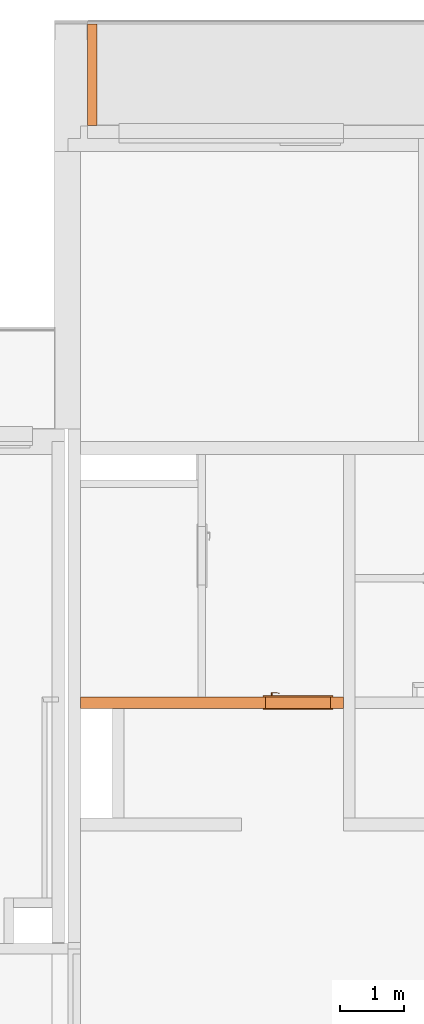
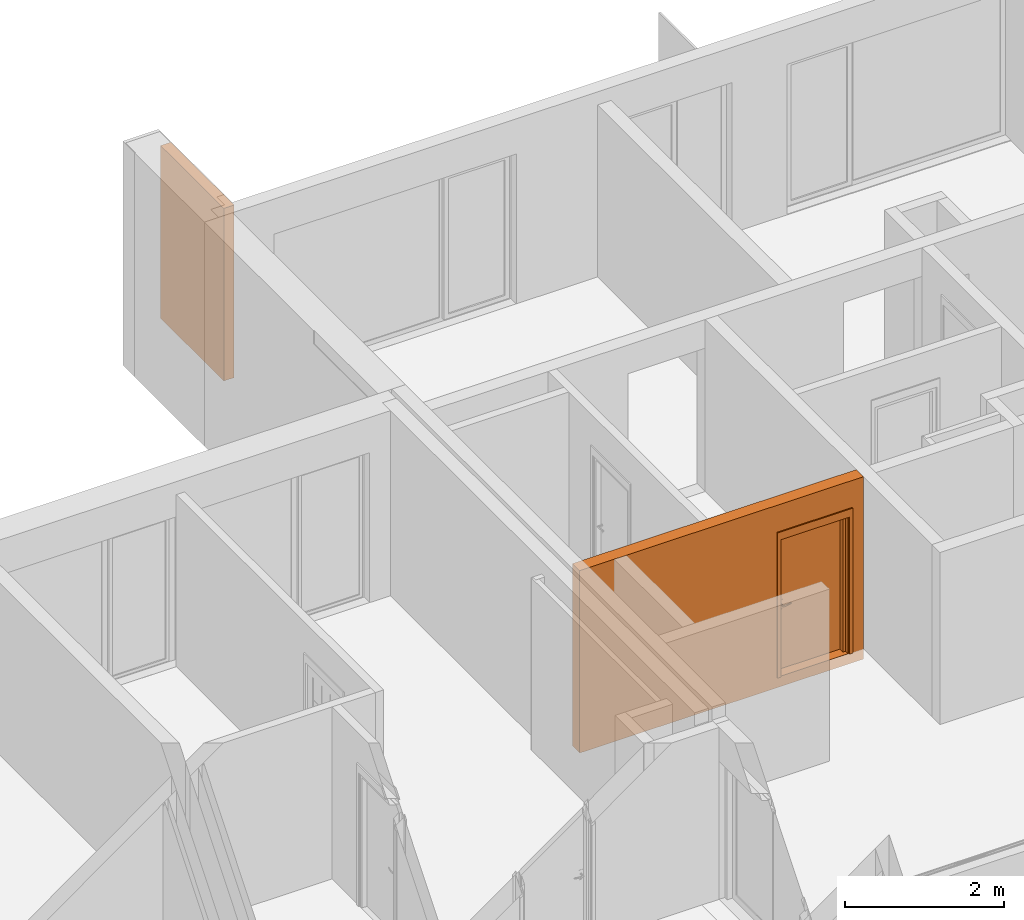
# One storey, part 34 of 67: 3 proxies, 1 opening.
"""IFC2X3 building model written with IfcOpenShell, lengths in millimetres."""

import ifcopenshell
import ifcopenshell.guid

model = None  # the IFC model being written
_history = None  # IfcOwnerHistory: only IFC2X3 demands one
_inside = {}  # id of a spatial element -> (the spatial element, [elements in it])
_under = {}  # id of a project, library or spatial element -> (it, [spatial elements below it])
_declared = {}  # id of a project -> (the project, [libraries it declares])
_typed = {}  # id of a type object -> (the type object, [elements of that type])
_made_of = {}  # id of a material, layer set ... -> (it, [elements and type objects made of it])


def new_model(schema):
    """Start an empty IFC model of exactly this schema.

    Asked for "IFC4X3", IfcOpenShell would pick the latest addendum, in which some entities
    have other attributes; the version numbers below select the first issue.
    IFC2X3 requires an IfcOwnerHistory on every rooted entity: one is made here for all.
    """
    global model, _history
    if schema == "IFC4X3":
        model = ifcopenshell.file(schema_version=(4, 3, 0, 0))
    else:
        model = ifcopenshell.file(schema=schema)
    _inside.clear()
    _under.clear()
    _declared.clear()
    _typed.clear()
    _made_of.clear()
    _history = None
    if model.schema == "IFC2X3":
        org = make("IfcOrganization", Name="unknown")
        user = make(
            "IfcPersonAndOrganization",
            ThePerson=make("IfcPerson", FamilyName="unknown"),
            TheOrganization=org,
        )
        app = make(
            "IfcApplication",
            ApplicationDeveloper=org,
            Version="unknown",
            ApplicationFullName="unknown",
            ApplicationIdentifier="unknown",
        )
        _history = make(
            "IfcOwnerHistory",
            OwningUser=user,
            OwningApplication=app,
            ChangeAction="ADDED",
            CreationDate=0,
        )
    return model


def make(cls, **values):
    """One entity of the class cls with the attributes given. An attribute that is None is left unset."""
    return model.create_entity(
        cls, **{name: value for name, value in values.items() if value is not None}
    )


def entity(cls, *values):
    """Any entity or typed value of the class cls, its attributes in the order of the schema. None: left unset."""
    e = model.create_entity(cls)
    for i, value in enumerate(values):
        if value is not None:
            e[i] = value
    return e


def rooted(cls, **values):
    """An entity with a GlobalId (a new one), such as an element, a storey or a relation."""
    return make(cls, GlobalId=ifcopenshell.guid.new(), OwnerHistory=_history, **values)


def si_unit(unit_type, name, prefix=None):
    """IfcSIUnit, for example si_unit("LENGTHUNIT", "METRE", prefix="MILLI")."""
    return make("IfcSIUnit", UnitType=unit_type, Prefix=prefix, Name=name)


def converted_unit(unit_type, name, factor, base, dimensions=None, offset=None):
    """IfcConversionBasedUnit, such as the inch: factor (a typed value) times the base unit."""
    return make(
        "IfcConversionBasedUnit"
        if offset is None
        else "IfcConversionBasedUnitWithOffset",
        ConversionOffset=offset,
        Dimensions=None
        if dimensions is None
        else entity("IfcDimensionalExponents", *dimensions),
        UnitType=unit_type,
        Name=name,
        ConversionFactor=make(
            "IfcMeasureWithUnit", ValueComponent=factor, UnitComponent=base
        ),
    )


def derived_unit(unit_type, elements):
    """IfcDerivedUnit: a product of units, each with its exponent."""
    return make(
        "IfcDerivedUnit",
        Elements=[
            make("IfcDerivedUnitElement", Unit=unit, Exponent=power)
            for unit, power in elements
        ],
        UnitType=unit_type,
    )


def money_unit(currency):
    """IfcMonetaryUnit."""
    return make("IfcMonetaryUnit", Currency=currency)


def assignment(units):
    """IfcUnitAssignment: the units of a project."""
    return None if units is None else make("IfcUnitAssignment", Units=units)


def point(xyz):
    """IfcCartesianPoint."""
    return None if xyz is None else make("IfcCartesianPoint", Coordinates=xyz)


def direction(xyz):
    """IfcDirection."""
    return None if xyz is None else make("IfcDirection", DirectionRatios=xyz)


def frame(location, z_axis=None, x_axis=None):
    """IfcAxis2Placement3D, a coordinate frame: its origin and axes. An axis left out is left unset."""
    return make(
        "IfcAxis2Placement3D",
        Location=point(location),
        Axis=direction(z_axis),
        RefDirection=direction(x_axis),
    )


def frame_2d(location, x_axis=None):
    """IfcAxis2Placement2D, a coordinate frame in the plane: its origin and x axis."""
    return make(
        "IfcAxis2Placement2D", Location=point(location), RefDirection=direction(x_axis)
    )


def origin_with_axes():
    """The frame at (0, 0, 0) with the z axis (0, 0, 1) and the x axis (1, 0, 0) written out."""
    return frame((0.0, 0.0, 0.0), z_axis=(0.0, 0.0, 1.0), x_axis=(1.0, 0.0, 0.0))


def origin_2d_with_axis():
    """The frame at (0, 0) in the plane with the x axis (1, 0) written out."""
    return frame_2d((0.0, 0.0), x_axis=(1.0, 0.0))


def place(relative_to, where):
    """IfcLocalPlacement: puts the frame where relative to a parent placement (None: the world)."""
    return make(
        "IfcLocalPlacement", PlacementRelTo=relative_to, RelativePlacement=where
    )


def context(
    kind, dimensions, precision=None, world=None, true_north=None, identifier=None
):
    """IfcGeometricRepresentationContext, for example the 3D "Model" context."""
    return make(
        "IfcGeometricRepresentationContext",
        ContextIdentifier=identifier,
        ContextType=kind,
        CoordinateSpaceDimension=dimensions,
        Precision=precision,
        WorldCoordinateSystem=world,
        TrueNorth=true_north,
    )


def subcontext(parent, identifier, kind, view, scale=None):
    """IfcGeometricRepresentationSubContext, for example "Body" below "Model"."""
    return make(
        "IfcGeometricRepresentationSubContext",
        ContextIdentifier=identifier,
        ContextType=kind,
        ParentContext=parent,
        TargetScale=scale,
        TargetView=view,
    )


def project(units=None, contexts=None):
    """IfcProject with its units and contexts."""
    return rooted(
        "IfcProject",
        Name="project",
        RepresentationContexts=contexts,
        UnitsInContext=assignment(units),
    )


def spatial(cls, under=None, at=None, **own):
    """A site, building, storey or space (cls), placed at a placement, below another one or the project."""
    s = rooted(cls, ObjectPlacement=at, **own)
    if under is not None:
        _under.setdefault(under.id(), (under, []))[1].append(s)
    return s


def polyline(points):
    """IfcPolyline through the points."""
    return make("IfcPolyline", Points=[point(p) for p in points])


def profile(cls, at=None, kind="AREA", **sizes):
    """A parametric profile (cls). Its sizes go by their IFC names, for example OverallWidth=200.0."""
    return make(cls, ProfileType=kind, Position=at, **sizes)


def rectangle(**sizes):
    """IfcRectangleProfileDef."""
    return profile("IfcRectangleProfileDef", **sizes)


def outline(outer, holes=None, kind="AREA"):
    """IfcArbitraryClosedProfileDef: a profile drawn as a closed curve; with holes, ...WithVoids."""
    if holes is None:
        return make("IfcArbitraryClosedProfileDef", ProfileType=kind, OuterCurve=outer)
    return make(
        "IfcArbitraryProfileDefWithVoids",
        ProfileType=kind,
        OuterCurve=outer,
        InnerCurves=holes,
    )


def extrude(swept, where, along, depth):
    """IfcExtrudedAreaSolid: the profile swept, set in the frame where, extruded along a direction by depth."""
    return make(
        "IfcExtrudedAreaSolid",
        SweptArea=swept,
        Position=where,
        ExtrudedDirection=direction(along),
        Depth=depth,
    )


def faces_of(points, faces, orient=None, outer=None):
    """IfcFace entities. A face is a list of loops; a loop is a list of indices into points, from 0.

    orient and outer hold one flag for each loop. By default every Orientation is true, the
    first loop of a face is its IfcFaceOuterBound and the others are IfcFaceBound.
    """
    made = []
    for i, loops in enumerate(faces):
        bounds = []
        for j, loop in enumerate(loops):
            is_outer = j == 0 if outer is None else outer[i][j]
            bounds.append(
                make(
                    "IfcFaceOuterBound" if is_outer else "IfcFaceBound",
                    Bound=make("IfcPolyLoop", Polygon=[points[k] for k in loop]),
                    Orientation=True if orient is None else orient[i][j],
                )
            )
        made.append(make("IfcFace", Bounds=bounds))
    return made


def open_shell(faces, orient=None, outer=None):
    """The faces of one IfcOpenShell. surface_model builds it on its shared points."""
    return ("IfcOpenShell", faces, orient, outer)


def faceted_brep(points, faces, orient=None, outer=None, voids=None):
    """IfcFacetedBrep: a solid bounded by flat faces; with voids (closed shells), ...WithVoids."""
    shared = [point(p) for p in points]
    hull = make("IfcClosedShell", CfsFaces=faces_of(shared, faces, orient, outer))
    if voids is None:
        return make("IfcFacetedBrep", Outer=hull)
    return make(
        "IfcFacetedBrepWithVoids",
        Outer=hull,
        Voids=[
            make(cls, CfsFaces=faces_of(shared, fs, o, b)) for cls, fs, o, b in voids
        ],
    )


def surface_model(cls, points, shells):
    """IfcFaceBasedSurfaceModel or IfcShellBasedSurfaceModel (cls): surfaces that need not close."""
    shared = [point(p) for p in points]
    made = [make(c, CfsFaces=faces_of(shared, fs, o, b)) for c, fs, o, b in shells]
    if cls == "IfcFaceBasedSurfaceModel":
        return make(cls, FbsmFaces=made)
    return make(cls, SbsmBoundary=made)


def shape(context_of_items, identifier, shape_type, items):
    """IfcShapeRepresentation: the items that make up one representation, for example the "Body"."""
    return make(
        "IfcShapeRepresentation",
        ContextOfItems=context_of_items,
        RepresentationIdentifier=identifier,
        RepresentationType=shape_type,
        Items=items,
    )


def source(mapping_origin, context_of_items, identifier, shape_type, items):
    """IfcRepresentationMap: a shape defined once, which mapped items show again and again."""
    return make(
        "IfcRepresentationMap",
        MappingOrigin=mapping_origin,
        MappedRepresentation=shape(context_of_items, identifier, shape_type, items),
    )


def transform(
    local_origin,
    x_axis=None,
    y_axis=None,
    z_axis=None,
    scale=None,
    scale2=None,
    scale3=None,
    uniform=True,
):
    """IfcCartesianTransformationOperator3D, or its non-uniform kind. x_axis, y_axis, z_axis: its Axis1, 2, 3."""
    if uniform:
        return make(
            "IfcCartesianTransformationOperator3D",
            Axis1=direction(x_axis),
            Axis2=direction(y_axis),
            LocalOrigin=point(local_origin),
            Scale=scale,
            Axis3=direction(z_axis),
        )
    return make(
        "IfcCartesianTransformationOperator3DnonUniform",
        Axis1=direction(x_axis),
        Axis2=direction(y_axis),
        LocalOrigin=point(local_origin),
        Scale=scale,
        Axis3=direction(z_axis),
        Scale2=scale2,
        Scale3=scale3,
    )


def mapped(mapping_source, mapping_target):
    """IfcMappedItem: shows the shape of a source again, moved by a transform."""
    return make(
        "IfcMappedItem", MappingSource=mapping_source, MappingTarget=mapping_target
    )


def material(Name=None, Category=None):
    """IfcMaterial."""
    return make("IfcMaterial", Name=Name, Category=Category)


def made_of(thing, what):
    """Note that an element or type object is made of a material, layer set ...; save() writes the relation."""
    if what is not None:
        _made_of.setdefault(what.id(), (what, []))[1].append(thing)
    return thing


def type_object(cls, material=None, **own):
    """A type object (cls), such as IfcWallType, which elements share."""
    return made_of(rooted(cls, **own), material)


def element(
    cls,
    number,
    at=None,
    inside=None,
    cuts=None,
    type_object=None,
    material=None,
    context=None,
    identifier="Body",
    shape_type=None,
    held_by="IfcProductDefinitionShape",
    body=None,
    shapes=None,
    **own,
):
    """One element of the class cls, such as IfcWall. Its Tag is "e" and its number.

    at: its placement. inside: the storey or other place that contains it. cuts: it is an
    opening in that element (IfcRelVoidsElement). A single representation is given by context,
    identifier, shape_type and body (its items); several are given by shapes. held_by: the class
    of the entity that holds the representations. save() writes the other relations.
    """
    e = rooted(cls, Tag="e%d" % number, ObjectPlacement=at, **own)
    if body is not None:
        shapes = [shape(context, identifier, shape_type, body)]
    if shapes is not None:
        e.Representation = make(held_by, Representations=shapes)
    if inside is not None:
        _inside.setdefault(inside.id(), (inside, []))[1].append(e)
    if cuts is not None:
        rooted(
            "IfcRelVoidsElement", RelatingBuildingElement=cuts, RelatedOpeningElement=e
        )
    if type_object is not None:
        _typed.setdefault(type_object.id(), (type_object, []))[1].append(e)
    return made_of(e, material)


def fill(opening, filler):
    """IfcRelFillsElement: the door or window that sits in an opening."""
    return rooted(
        "IfcRelFillsElement",
        RelatingOpeningElement=opening,
        RelatedBuildingElement=filler,
    )


def aggregate(whole, parts):
    """IfcRelAggregates: a whole, such as a stair, and the parts it consists of."""
    return rooted("IfcRelAggregates", RelatingObject=whole, RelatedObjects=parts)


def save(model, path):
    """Write the relations noted so far, then the file.

    IfcRelAggregates (storeys below a building ...), IfcRelContainedInSpatialStructure (elements
    in a storey), IfcRelDefinesByType, IfcRelAssociatesMaterial and IfcRelDeclares: one each for
    every whole, place, type object, material and project.
    """
    for whole, parts in _under.values():
        aggregate(whole, parts)
    for where, things in _inside.values():
        rooted(
            "IfcRelContainedInSpatialStructure",
            RelatedElements=things,
            RelatingStructure=where,
        )
    for kind, things in _typed.values():
        rooted("IfcRelDefinesByType", RelatedObjects=things, RelatingType=kind)
    for what, things in _made_of.values():
        rooted("IfcRelAssociatesMaterial", RelatedObjects=things, RelatingMaterial=what)
    for by, libraries in _declared.values():
        rooted("IfcRelDeclares", RelatingContext=by, RelatedDefinitions=libraries)
    model.write(path)


model = new_model("IFC2X3")

# Units and contexts
model_context = context("Model", 3, precision=0.01, world=origin_with_axes(), true_north=direction((0.34421633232, 0.938890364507)))
body_context = subcontext(model_context, "Body", "Model", "MODEL_VIEW")
ifc_project = project(units=[si_unit("LENGTHUNIT", "METRE", prefix="MILLI"), si_unit("AREAUNIT", "SQUARE_METRE"), si_unit("VOLUMEUNIT", "CUBIC_METRE"), converted_unit("PLANEANGLEUNIT", "DEGREE", entity("IfcPlaneAngleMeasure", 0.0174532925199), si_unit("PLANEANGLEUNIT", "RADIAN"), dimensions=[0, 0, 0, 0, 0, 0, 0]), si_unit("SOLIDANGLEUNIT", "STERADIAN"), money_unit("USD"), converted_unit("TIMEUNIT", "Year", entity("IfcTimeMeasure", 31556926.0), si_unit("TIMEUNIT", "SECOND"), dimensions=[0, 0, 1, 0, 0, 0, 0]), si_unit("MASSUNIT", "GRAM", prefix="KILO"), si_unit("THERMODYNAMICTEMPERATUREUNIT", "DEGREE_CELSIUS"), si_unit("LUMINOUSINTENSITYUNIT", "LUMEN"), si_unit("ENERGYUNIT", "JOULE", prefix="MEGA"), derived_unit("THERMALCONDUCTANCEUNIT", [(si_unit("POWERUNIT", "WATT"), 1), (si_unit("LENGTHUNIT", "METRE"), -1), (si_unit("THERMODYNAMICTEMPERATUREUNIT", "KELVIN"), -1)]), derived_unit("SPECIFICHEATCAPACITYUNIT", [(si_unit("ENERGYUNIT", "JOULE"), 1), (si_unit("MASSUNIT", "GRAM", prefix="KILO"), -1), (si_unit("THERMODYNAMICTEMPERATUREUNIT", "KELVIN"), -1)]), derived_unit("MASSDENSITYUNIT", [(si_unit("MASSUNIT", "GRAM", prefix="KILO"), 1), (si_unit("VOLUMEUNIT", "CUBIC_METRE"), -1)])], contexts=[model_context])

# Site, building, storey
site_placement = place(None, origin_with_axes())
site = spatial("IfcSite", under=ifc_project, at=site_placement, Name="USTRONIE MORSKIE", CompositionType="ELEMENT")
building_placement = place(site_placement, origin_with_axes())
building = spatial("IfcBuilding", under=site, at=building_placement, Name="Budynek", CompositionType="ELEMENT")
storey_placement = place(building_placement, frame((0.0, 0.0, 4000.0), z_axis=(0.0, 0.0, 1.0), x_axis=(1.0, 0.0, 0.0)))
storey = spatial("IfcBuildingStorey", under=building, at=storey_placement, Name="PIĘTRO 1", CompositionType="ELEMENT", Elevation=4000.0)

# Proxies, opening
ifc_material_1 = material(Name="Bloczki silikatowe")
building_element_proxy_type_1 = type_object("IfcBuildingElementProxyType", Name="Bloczki silikatowe 180", PredefinedType="NOTDEFINED")
proxy_1_placement = place(storey_placement, frame((412877.920963, 740711.179476, -160.0), z_axis=(0.0, 0.0, 1.0), x_axis=(-1.0, 0.0, 0.0)))
proxy_1 = element("IfcBuildingElementProxy", 1, at=proxy_1_placement, inside=storey, type_object=building_element_proxy_type_1, material=ifc_material_1, Name="SW-02", context=body_context, shape_type="Brep", body=[
    faceted_brep([(4210.04738096, 90.0, 2800.0), (90.0, 90.0, 2800.0), (90.0, -90.0, 2800.0), (4210.04543563, -90.0, 2800.0), (4210.04738096, 90.0, 0.0), (90.0, 90.0, 0.0), (90.0, -90.0, 0.0), (4210.04543563, -90.0, 0.0)], [[[0, 1, 2, 3]], [[4, 5, 1, 0]], [[5, 6, 2, 1]], [[3, 2, 6, 7]], [[0, 3, 7, 4]], [[7, 6, 5, 4]]]),
])
opening_placement = place(proxy_1_placement, frame((800.0, 0.0, 160.0), z_axis=(0.0, 0.0, 1.0), x_axis=(1.0, 0.0, 0.0)))
opening = element("IfcOpeningElement", 2, at=opening_placement, cuts=proxy_1, Name="Dw.1", context=body_context, shape_type="SweptSolid", body=[
    extrude(rectangle(XDim=1020.0, YDim=2120.0, at=origin_2d_with_axis()), frame((0.0, 180.0, 1060.0), z_axis=(0.0, -1.0, 0.0), x_axis=(-1.0, 0.0, 0.0)), (0.0, 0.0, 1.0), 540.0),
    extrude(rectangle(XDim=1094.0, YDim=2227.0, at=origin_2d_with_axis()), frame((0.0, 89.9999999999, 1113.5), z_axis=(0.0, -1.0, 0.0), x_axis=(-1.0, 0.0, 0.0)), (0.0, 0.0, -1.0), 180.0),
    extrude(rectangle(XDim=1094.0, YDim=2227.0, at=origin_2d_with_axis()), frame((0.0, -90.0, 1113.5), z_axis=(0.0, 1.0, 0.0), x_axis=(-1.0, 0.0, 0.0)), (0.0, 0.0, -1.0), 180.0),
])
building_element_proxy_type_2 = type_object("IfcBuildingElementProxyType", Name="Drzwi 23", PredefinedType="NOTDEFINED")
shared_shape = source(origin_with_axes(), body_context, "Body", "SurfaceModel", [
    faceted_brep([(-510.0, -115.0, 0.0), (-485.0, -115.0, 0.0), (-485.0, -180.0, 0.0), (-510.0, -180.0, 0.0), (-510.0, -115.0, 2120.0), (-485.0, -115.0, 2095.0), (-485.0, -180.0, 2095.0), (-510.0, -180.0, 2120.0)], [[[0, 1, 2, 3]], [[0, 4, 5, 1]], [[1, 5, 6, 2]], [[3, 2, 6, 7]], [[4, 0, 3, 7]], [[5, 4, 7, 6]]]),
    faceted_brep([(510.0, -115.0, 2120.0), (485.0, -115.0, 2095.0), (485.0, -180.0, 2095.0), (510.0, -180.0, 2120.0), (510.0, -115.0, 0.0), (485.0, -115.0, 0.0), (485.0, -180.0, 0.0), (510.0, -180.0, 0.0)], [[[0, 1, 2, 3]], [[0, 4, 5, 1]], [[1, 5, 6, 2]], [[3, 2, 6, 7]], [[4, 0, 3, 7]], [[5, 4, 7, 6]]]),
    faceted_brep([(-485.0, -115.0, 2095.0), (485.0, -115.0, 2095.0), (485.0, -180.0, 2095.0), (-485.0, -180.0, 2095.0), (-510.0, -115.0, 2120.0), (510.0, -115.0, 2120.0), (510.0, -180.0, 2120.0), (-510.0, -180.0, 2120.0)], [[[0, 1, 2, 3]], [[0, 4, 5, 1]], [[1, 5, 6, 2]], [[3, 2, 6, 7]], [[4, 0, 3, 7]], [[5, 4, 7, 6]]]),
    faceted_brep([(-547.0, -199.0, 0.0), (-547.0, -180.0, 0.0), (-497.0, -180.0, 0.0), (-497.0, -199.0, 0.0), (-547.0, -199.0, 2227.0), (-547.0, -180.0, 2227.0), (-497.0, -180.0, 2107.0), (-497.0, -199.0, 2107.0)], [[[0, 1, 2, 3]], [[4, 5, 1, 0]], [[1, 5, 6, 2]], [[3, 2, 6, 7]], [[0, 3, 7, 4]], [[7, 6, 5, 4]]]),
    faceted_brep([(547.0, -199.0, 2227.0), (547.0, -180.0, 2227.0), (497.0, -180.0, 2107.0), (497.0, -199.0, 2107.0), (547.0, -199.0, 0.0), (547.0, -180.0, 0.0), (497.0, -180.0, 0.0), (497.0, -199.0, 0.0)], [[[0, 1, 2, 3]], [[4, 5, 1, 0]], [[1, 5, 6, 2]], [[3, 2, 6, 7]], [[0, 3, 7, 4]], [[7, 6, 5, 4]]]),
    faceted_brep([(-547.0, -199.0, 2227.0), (-547.0, -180.0, 2227.0), (-497.0, -180.0, 2107.0), (-497.0, -199.0, 2107.0), (547.0, -199.0, 2227.0), (547.0, -180.0, 2227.0), (497.0, -180.0, 2107.0), (497.0, -199.0, 2107.0)], [[[0, 1, 2, 3]], [[4, 5, 1, 0]], [[1, 5, 6, 2]], [[3, 2, 6, 7]], [[0, 3, 7, 4]], [[7, 6, 5, 4]]]),
    faceted_brep([(-547.0, 19.0, 0.0), (-497.0, 19.0, 0.0), (-497.0, 0.0, 0.0), (-547.0, 0.0, 0.0), (-547.0, 19.0, 2227.0), (-497.0, 19.0, 2107.0), (-497.0, 0.0, 2107.0), (-547.0, 0.0, 2227.0)], [[[0, 1, 2, 3]], [[0, 4, 5, 1]], [[1, 5, 6, 2]], [[3, 2, 6, 7]], [[4, 0, 3, 7]], [[5, 4, 7, 6]]]),
    faceted_brep([(547.0, 19.0, 2227.0), (497.0, 19.0, 2107.0), (497.0, 0.0, 2107.0), (547.0, 0.0, 2227.0), (547.0, 19.0, 0.0), (497.0, 19.0, 0.0), (497.0, 0.0, 0.0), (547.0, 0.0, 0.0)], [[[0, 1, 2, 3]], [[0, 4, 5, 1]], [[1, 5, 6, 2]], [[3, 2, 6, 7]], [[4, 0, 3, 7]], [[5, 4, 7, 6]]]),
    faceted_brep([(-547.0, 19.0, 2227.0), (-497.0, 19.0, 2107.0), (-497.0, 0.0, 2107.0), (-547.0, 0.0, 2227.0), (547.0, 19.0, 2227.0), (497.0, 19.0, 2107.0), (497.0, 0.0, 2107.0), (547.0, 0.0, 2227.0)], [[[0, 1, 2, 3]], [[0, 4, 5, 1]], [[1, 5, 6, 2]], [[3, 2, 6, 7]], [[4, 0, 3, 7]], [[5, 4, 7, 6]]]),
    faceted_brep([(-450.0, -40.0, 0.0), (-450.0, -40.0, 2050.0), (-450.0, -115.0, 2050.0), (-450.0, -115.0, 0.0), (-462.0, -40.0, 2050.0), (-462.0, -40.0, 0.0), (-462.0, 0.0, 2050.0), (-510.0, 0.0, 2050.0), (-510.0, -115.0, 2050.0), (-510.0, -115.0, 0.0), (-510.0, 0.0, 0.0), (-462.0, 0.0, 0.0)], [[[0, 1, 2, 3]], [[4, 1, 0, 5]], [[4, 6, 7, 8, 2, 1]], [[3, 2, 8, 9]], [[5, 0, 3, 9, 10, 11]], [[6, 4, 5, 11]], [[6, 11, 10, 7]], [[10, 9, 8, 7]]]),
    faceted_brep([(462.0, -40.0, 2050.0), (450.0, -40.0, 2050.0), (450.0, -115.0, 2050.0), (510.0, -115.0, 2050.0), (510.0, 0.0, 2050.0), (462.0, 0.0, 2050.0), (462.0, -40.0, 0.0), (450.0, -40.0, 0.0), (450.0, -115.0, 0.0), (510.0, -115.0, 0.0), (510.0, 0.0, 0.0), (462.0, 0.0, 0.0)], [[[0, 1, 2, 3, 4, 5]], [[1, 0, 6, 7]], [[1, 7, 8, 2]], [[3, 2, 8, 9]], [[4, 3, 9, 10]], [[11, 5, 4, 10]], [[0, 5, 11, 6]], [[6, 11, 10, 9, 8, 7]]]),
    faceted_brep([(-462.0, 0.0, 2062.0), (-462.0, 0.0, 2050.0), (-510.0, 0.0, 2050.0), (-510.0, 0.0, 2120.0), (510.0, 0.0, 2120.0), (510.0, 0.0, 2050.0), (462.0, 0.0, 2050.0), (462.0, 0.0, 2062.0), (-462.0, -40.0, 2062.0), (-462.0, -40.0, 2050.0), (-450.0, -40.0, 2050.0), (-450.0, -115.0, 2050.0), (-510.0, -115.0, 2050.0), (-510.0, -115.0, 2120.0), (510.0, -115.0, 2120.0), (510.0, -115.0, 2050.0), (462.0, -40.0, 2050.0), (450.0, -115.0, 2050.0), (450.0, -40.0, 2050.0), (462.0, -40.0, 2062.0)], [[[0, 1, 2, 3, 4, 5, 6, 7]], [[1, 0, 8, 9]], [[9, 10, 11, 12, 2, 1]], [[2, 12, 13, 3]], [[3, 13, 14, 4]], [[4, 14, 15, 5]], [[16, 6, 5, 15, 17, 18]], [[7, 6, 16, 19]], [[0, 7, 19, 8]], [[16, 18, 10, 9, 8, 19]], [[10, 18, 17, 11]], [[17, 15, 14, 13, 12, 11]]]),
    faceted_brep([(-440.5, -40.0, 1060.0), (-440.5, -43.0, 1060.0), (-383.5, -43.0, 1060.0), (-383.5, -40.0, 1060.0), (-440.5, -40.0, 870.0), (-440.5, -43.0, 870.0), (-383.5, -43.0, 870.0), (-383.5, -40.0, 870.0)], [[[0, 1, 2, 3]], [[4, 5, 1, 0]], [[1, 5, 6, 2]], [[3, 2, 6, 7]], [[0, 3, 7, 4]], [[7, 6, 5, 4]]]),
    faceted_brep([(-412.0, -104.0, 990.0), (-412.0, -111.0, 990.0), (-417.0, -111.0, 991.339745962), (-417.0, -104.0, 991.339745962), (-387.0, -104.0, 990.0), (-387.0, -111.0, 990.0), (-387.0, -111.0, 1010.0), (-412.0, -111.0, 1010.0), (-417.0, -111.0, 1008.66025404), (-420.660254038, -111.0, 1005.0), (-422.0, -111.0, 1000.0), (-420.660254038, -111.0, 995.0), (-420.660254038, -104.0, 995.0), (-422.0, -104.0, 1000.0), (-420.660254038, -104.0, 1005.0), (-417.0, -104.0, 1008.66025404), (-412.0, -104.0, 1010.0), (-387.0, -104.0, 1010.0)], [[[0, 1, 2, 3]], [[4, 5, 1, 0]], [[1, 5, 6, 7, 8, 9, 10, 11, 2]], [[3, 2, 11, 12]], [[0, 3, 12, 13, 14, 15, 16, 17, 4]], [[17, 6, 5, 4]], [[16, 7, 6, 17]], [[15, 8, 7, 16]], [[14, 9, 8, 15]], [[13, 10, 9, 14]], [[12, 11, 10, 13]]]),
    surface_model("IfcShellBasedSurfaceModel", [(-387.0, -104.0, 1010.0), (-373.596090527, -111.0, 1009.60730092), (-373.901717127, -104.0, 1009.60730092), (-387.0, -111.0, 1010.0), (-346.890283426, -108.663544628, 1008.82190275), (-373.901717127, -104.0, 990.392699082), (-387.0, -104.0, 990.0), (-387.0, -111.0, 990.0), (-373.596090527, -111.0, 990.392699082), (-346.890283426, -108.663544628, 991.178097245), (-347.804837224, -101.716818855, 1008.82190275), (-347.804837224, -101.716818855, 991.178097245), (-320.489735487, -104.008415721, 991.963495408), (-320.489735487, -104.008415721, 1008.03650459), (-322.006256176, -97.1678329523, 1008.03650459), (-322.006256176, -97.1678329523, 991.963495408), (-294.59537082, -97.0700416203, 992.748893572), (-294.59537082, -97.0700416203, 1007.25110643), (-296.702316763, -90.3876628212, 1007.25110643), (-296.702316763, -90.3876628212, 992.748893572), (-286.538795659, -94.1376880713, 993.0), (-286.538795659, -94.1376880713, 1007.0), (-288.829442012, -87.5221707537, 1007.0), (-288.829442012, -87.5221707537, 993.0)], [open_shell([[[0, 1, 2]], [[0, 3, 1]], [[2, 1, 4]], [[0, 2, 5, 6]], [[3, 7, 8, 1]], [[1, 8, 9, 4]], [[2, 4, 10]], [[2, 10, 11, 5]], [[5, 7, 6]], [[5, 8, 7]], [[11, 9, 8]], [[4, 9, 12, 13]], [[10, 4, 13]], [[10, 14, 15, 11]], [[11, 8, 5]], [[15, 9, 11]], [[15, 12, 9]], [[13, 12, 16, 17]], [[10, 13, 14]], [[14, 18, 19, 15]], [[19, 12, 15]], [[19, 16, 12]], [[17, 16, 20, 21]], [[14, 13, 17]], [[14, 17, 18]], [[18, 22, 23, 19]], [[23, 16, 19]], [[23, 20, 16]], [[22, 21, 20, 23]], [[18, 17, 21]], [[18, 21, 22]]])]),
    faceted_brep([(-401.607695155, -53.0, 994.0), (-400.741669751, -43.0, 993.5), (-399.0, -43.0, 1000.0), (-400.0, -53.0, 1000.0), (-406.0, -53.0, 989.607695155), (-405.5, -43.0, 988.741669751), (-412.0, -43.0, 987.0), (-418.5, -43.0, 988.741669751), (-423.258330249, -43.0, 993.5), (-425.0, -43.0, 1000.0), (-423.258330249, -43.0, 1006.5), (-418.5, -43.0, 1011.25833025), (-412.0, -43.0, 1013.0), (-405.5, -43.0, 1011.25833025), (-400.741669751, -43.0, 1006.5), (-401.607695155, -53.0, 1006.0), (-406.0, -53.0, 1010.39230485), (-412.0, -53.0, 1012.0), (-418.0, -53.0, 1010.39230485), (-422.392304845, -53.0, 1006.0), (-424.0, -53.0, 1000.0), (-422.392304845, -53.0, 994.0), (-418.0, -53.0, 989.607695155), (-412.0, -53.0, 988.0)], [[[0, 1, 2, 3]], [[4, 5, 1, 0]], [[2, 1, 5, 6, 7, 8, 9, 10, 11, 12, 13, 14]], [[3, 2, 14, 15]], [[3, 15, 16, 17, 18, 19, 20, 21, 22, 23, 4, 0]], [[23, 6, 5, 4]], [[22, 7, 6, 23]], [[21, 8, 7, 22]], [[20, 9, 8, 21]], [[19, 10, 9, 20]], [[18, 11, 10, 19]], [[17, 12, 11, 18]], [[16, 13, 12, 17]], [[15, 14, 13, 16]]]),
    faceted_brep([(-394.679491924, -47.0, 895.0), (-392.947441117, -43.0, 894.0), (-390.0, -43.0, 905.0), (-392.0, -47.0, 905.0), (-402.0, -47.0, 887.679491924), (-401.0, -43.0, 885.947441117), (-412.0, -43.0, 883.0), (-423.0, -43.0, 885.947441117), (-431.052558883, -43.0, 894.0), (-434.0, -43.0, 905.0), (-431.052558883, -43.0, 916.0), (-423.0, -43.0, 924.052558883), (-412.0, -43.0, 927.0), (-401.0, -43.0, 924.052558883), (-392.947441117, -43.0, 916.0), (-394.679491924, -47.0, 915.0), (-402.0, -47.0, 922.320508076), (-412.0, -47.0, 925.0), (-422.0, -47.0, 922.320508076), (-429.320508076, -47.0, 915.0), (-432.0, -47.0, 905.0), (-429.320508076, -47.0, 895.0), (-422.0, -47.0, 887.679491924), (-412.0, -47.0, 885.0)], [[[0, 1, 2, 3]], [[4, 5, 1, 0]], [[2, 1, 5, 6, 7, 8, 9, 10, 11, 12, 13, 14]], [[3, 2, 14, 15]], [[3, 15, 16, 17, 18, 19, 20, 21, 22, 23, 4, 0]], [[23, 6, 5, 4]], [[22, 7, 6, 23]], [[21, 8, 7, 22]], [[20, 9, 8, 21]], [[19, 10, 9, 20]], [[18, 11, 10, 19]], [[17, 12, 11, 18]], [[16, 13, 12, 17]], [[15, 14, 13, 16]]]),
    faceted_brep([(-407.050252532, -49.0, 909.050252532), (-406.343145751, -47.0, 908.343145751), (-404.0, -47.0, 914.0), (-405.0, -49.0, 914.0), (-412.0, -49.0, 907.0), (-412.0, -47.0, 906.0), (-417.656854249, -47.0, 908.343145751), (-420.0, -47.0, 914.0), (-417.656854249, -47.0, 919.656854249), (-412.0, -47.0, 922.0), (-406.343145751, -47.0, 919.656854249), (-407.050252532, -49.0, 918.949747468), (-412.0, -49.0, 921.0), (-416.949747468, -49.0, 918.949747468), (-419.0, -49.0, 914.0), (-416.949747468, -49.0, 909.050252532)], [[[0, 1, 2, 3]], [[4, 5, 1, 0]], [[2, 1, 5, 6, 7, 8, 9, 10]], [[3, 2, 10, 11]], [[3, 11, 12, 13, 14, 15, 4, 0]], [[15, 6, 5, 4]], [[14, 7, 6, 15]], [[13, 8, 7, 14]], [[12, 9, 8, 13]], [[11, 10, 9, 12]]]),
    faceted_brep([(-412.0, -53.0, 1010.0), (-412.0, -104.0, 1010.0), (-407.0, -104.0, 1008.66025404), (-407.0, -53.0, 1008.66025404), (-417.0, -53.0, 1008.66025404), (-417.0, -104.0, 1008.66025404), (-420.660254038, -104.0, 1005.0), (-422.0, -104.0, 1000.0), (-420.660254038, -104.0, 995.0), (-417.0, -104.0, 991.339745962), (-412.0, -104.0, 990.0), (-407.0, -104.0, 991.339745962), (-403.339745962, -104.0, 995.0), (-402.0, -104.0, 1000.0), (-403.339745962, -104.0, 1005.0), (-403.339745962, -53.0, 1005.0), (-402.0, -53.0, 1000.0), (-403.339745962, -53.0, 995.0), (-407.0, -53.0, 991.339745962), (-412.0, -53.0, 990.0), (-417.0, -53.0, 991.339745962), (-420.660254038, -53.0, 995.0), (-422.0, -53.0, 1000.0), (-420.660254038, -53.0, 1005.0)], [[[0, 1, 2, 3]], [[4, 5, 1, 0]], [[1, 5, 6, 7, 8, 9, 10, 11, 12, 13, 14, 2]], [[3, 2, 14, 15]], [[0, 3, 15, 16, 17, 18, 19, 20, 21, 22, 23, 4]], [[23, 6, 5, 4]], [[22, 7, 6, 23]], [[21, 8, 7, 22]], [[20, 9, 8, 21]], [[19, 10, 9, 20]], [[18, 11, 10, 19]], [[17, 12, 11, 18]], [[16, 13, 12, 17]], [[15, 14, 13, 16]]]),
    faceted_brep([(-440.5, 0.0, 1060.0), (-383.5, 0.0, 1060.0), (-383.5, 3.0, 1060.0), (-440.5, 3.0, 1060.0), (-440.5, 0.0, 870.0), (-383.5, 0.0, 870.0), (-383.5, 3.0, 870.0), (-440.5, 3.0, 870.0)], [[[0, 1, 2, 3]], [[0, 4, 5, 1]], [[1, 5, 6, 2]], [[3, 2, 6, 7]], [[4, 0, 3, 7]], [[5, 4, 7, 6]]]),
    faceted_brep([(-412.0, 64.0, 990.0), (-417.0, 64.0, 991.339745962), (-417.0, 71.0, 991.339745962), (-412.0, 71.0, 990.0), (-387.0, 64.0, 990.0), (-387.0, 64.0, 1010.0), (-412.0, 64.0, 1010.0), (-417.0, 64.0, 1008.66025404), (-420.660254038, 64.0, 1005.0), (-422.0, 64.0, 1000.0), (-420.660254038, 64.0, 995.0), (-420.660254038, 71.0, 995.0), (-422.0, 71.0, 1000.0), (-420.660254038, 71.0, 1005.0), (-417.0, 71.0, 1008.66025404), (-412.0, 71.0, 1010.0), (-387.0, 71.0, 1010.0), (-387.0, 71.0, 990.0)], [[[0, 1, 2, 3]], [[0, 4, 5, 6, 7, 8, 9, 10, 1]], [[1, 10, 11, 2]], [[3, 2, 11, 12, 13, 14, 15, 16, 17]], [[4, 0, 3, 17]], [[5, 4, 17, 16]], [[6, 5, 16, 15]], [[7, 6, 15, 14]], [[8, 7, 14, 13]], [[9, 8, 13, 12]], [[10, 9, 12, 11]]]),
    surface_model("IfcShellBasedSurfaceModel", [(-387.0, 64.0, 1010.0), (-373.901717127, 64.0, 1009.60730092), (-373.596090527, 71.0, 1009.60730092), (-387.0, 64.0, 990.0), (-373.901717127, 64.0, 990.392699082), (-346.890283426, 68.6635446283, 1008.82190275), (-387.0, 71.0, 1010.0), (-387.0, 71.0, 990.0), (-347.804837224, 61.716818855, 991.178097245), (-347.804837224, 61.716818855, 1008.82190275), (-346.890283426, 68.6635446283, 991.178097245), (-373.596090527, 71.0, 990.392699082), (-322.006256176, 57.1678329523, 991.963495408), (-322.006256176, 57.1678329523, 1008.03650459), (-320.489735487, 64.0084157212, 1008.03650459), (-320.489735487, 64.0084157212, 991.963495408), (-296.702316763, 50.3876628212, 992.748893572), (-296.702316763, 50.3876628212, 1007.25110643), (-294.59537082, 57.0700416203, 1007.25110643), (-294.59537082, 57.0700416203, 992.748893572), (-288.829442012, 47.5221707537, 993.0), (-288.829442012, 47.5221707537, 1007.0), (-286.538795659, 54.1376880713, 1007.0), (-286.538795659, 54.1376880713, 993.0)], [open_shell([[[0, 1, 2]], [[0, 3, 4, 1]], [[1, 5, 2]], [[0, 2, 6]], [[4, 3, 7]], [[1, 4, 8, 9]], [[1, 9, 5]], [[2, 5, 10, 11]], [[6, 2, 11, 7]], [[4, 7, 11]], [[8, 4, 11]], [[9, 8, 12, 13]], [[9, 14, 5]], [[5, 14, 15, 10]], [[8, 11, 10]], [[12, 8, 10]], [[13, 12, 16, 17]], [[9, 13, 14]], [[14, 18, 19, 15]], [[12, 10, 15]], [[16, 12, 15]], [[17, 16, 20, 21]], [[13, 17, 18]], [[13, 18, 14]], [[18, 22, 23, 19]], [[16, 15, 19]], [[20, 16, 19]], [[21, 20, 23, 22]], [[17, 21, 22]], [[17, 22, 18]], [[20, 19, 23]]])]),
    faceted_brep([(-401.607695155, 13.0, 994.0), (-400.0, 13.0, 1000.0), (-399.0, 3.0, 1000.0), (-400.741669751, 3.0, 993.5), (-406.0, 13.0, 989.607695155), (-412.0, 13.0, 988.0), (-418.0, 13.0, 989.607695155), (-422.392304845, 13.0, 994.0), (-424.0, 13.0, 1000.0), (-422.392304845, 13.0, 1006.0), (-418.0, 13.0, 1010.39230485), (-412.0, 13.0, 1012.0), (-406.0, 13.0, 1010.39230485), (-401.607695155, 13.0, 1006.0), (-400.741669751, 3.0, 1006.5), (-405.5, 3.0, 1011.25833025), (-412.0, 3.0, 1013.0), (-418.5, 3.0, 1011.25833025), (-423.258330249, 3.0, 1006.5), (-425.0, 3.0, 1000.0), (-423.258330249, 3.0, 993.5), (-418.5, 3.0, 988.741669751), (-412.0, 3.0, 987.0), (-405.5, 3.0, 988.741669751)], [[[0, 1, 2, 3]], [[1, 0, 4, 5, 6, 7, 8, 9, 10, 11, 12, 13]], [[1, 13, 14, 2]], [[2, 14, 15, 16, 17, 18, 19, 20, 21, 22, 23, 3]], [[4, 0, 3, 23]], [[5, 4, 23, 22]], [[6, 5, 22, 21]], [[7, 6, 21, 20]], [[8, 7, 20, 19]], [[9, 8, 19, 18]], [[10, 9, 18, 17]], [[11, 10, 17, 16]], [[12, 11, 16, 15]], [[13, 12, 15, 14]]]),
    faceted_brep([(-394.679491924, 7.0, 895.0), (-392.0, 7.0, 905.0), (-390.0, 3.0, 905.0), (-392.947441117, 3.0, 894.0), (-402.0, 7.0, 887.679491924), (-412.0, 7.0, 885.0), (-422.0, 7.0, 887.679491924), (-429.320508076, 7.0, 895.0), (-432.0, 7.0, 905.0), (-429.320508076, 7.0, 915.0), (-422.0, 7.0, 922.320508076), (-412.0, 7.0, 925.0), (-402.0, 7.0, 922.320508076), (-394.679491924, 7.0, 915.0), (-392.947441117, 3.0, 916.0), (-401.0, 3.0, 924.052558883), (-412.0, 3.0, 927.0), (-423.0, 3.0, 924.052558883), (-431.052558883, 3.0, 916.0), (-434.0, 3.0, 905.0), (-431.052558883, 3.0, 894.0), (-423.0, 3.0, 885.947441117), (-412.0, 3.0, 883.0), (-401.0, 3.0, 885.947441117)], [[[0, 1, 2, 3]], [[1, 0, 4, 5, 6, 7, 8, 9, 10, 11, 12, 13]], [[1, 13, 14, 2]], [[2, 14, 15, 16, 17, 18, 19, 20, 21, 22, 23, 3]], [[4, 0, 3, 23]], [[5, 4, 23, 22]], [[6, 5, 22, 21]], [[7, 6, 21, 20]], [[8, 7, 20, 19]], [[9, 8, 19, 18]], [[10, 9, 18, 17]], [[11, 10, 17, 16]], [[12, 11, 16, 15]], [[13, 12, 15, 14]]]),
    faceted_brep([(-407.050252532, 9.0, 909.050252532), (-405.0, 9.0, 914.0), (-404.0, 7.0, 914.0), (-406.343145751, 7.0, 908.343145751), (-412.0, 9.0, 907.0), (-416.949747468, 9.0, 909.050252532), (-419.0, 9.0, 914.0), (-416.949747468, 9.0, 918.949747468), (-412.0, 9.0, 921.0), (-407.050252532, 9.0, 918.949747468), (-406.343145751, 7.0, 919.656854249), (-412.0, 7.0, 922.0), (-417.656854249, 7.0, 919.656854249), (-420.0, 7.0, 914.0), (-417.656854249, 7.0, 908.343145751), (-412.0, 7.0, 906.0)], [[[0, 1, 2, 3]], [[1, 0, 4, 5, 6, 7, 8, 9]], [[1, 9, 10, 2]], [[2, 10, 11, 12, 13, 14, 15, 3]], [[4, 0, 3, 15]], [[5, 4, 15, 14]], [[6, 5, 14, 13]], [[7, 6, 13, 12]], [[8, 7, 12, 11]], [[9, 8, 11, 10]]]),
    faceted_brep([(-412.0, 13.0, 1010.0), (-407.0, 13.0, 1008.66025404), (-407.0, 64.0, 1008.66025404), (-412.0, 64.0, 1010.0), (-417.0, 13.0, 1008.66025404), (-420.660254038, 13.0, 1005.0), (-422.0, 13.0, 1000.0), (-420.660254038, 13.0, 995.0), (-417.0, 13.0, 991.339745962), (-412.0, 13.0, 990.0), (-407.0, 13.0, 991.339745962), (-403.339745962, 13.0, 995.0), (-402.0, 13.0, 1000.0), (-403.339745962, 13.0, 1005.0), (-403.339745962, 64.0, 1005.0), (-402.0, 64.0, 1000.0), (-403.339745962, 64.0, 995.0), (-407.0, 64.0, 991.339745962), (-412.0, 64.0, 990.0), (-417.0, 64.0, 991.339745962), (-420.660254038, 64.0, 995.0), (-422.0, 64.0, 1000.0), (-420.660254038, 64.0, 1005.0), (-417.0, 64.0, 1008.66025404)], [[[0, 1, 2, 3]], [[0, 4, 5, 6, 7, 8, 9, 10, 11, 12, 13, 1]], [[1, 13, 14, 2]], [[3, 2, 14, 15, 16, 17, 18, 19, 20, 21, 22, 23]], [[4, 0, 3, 23]], [[5, 4, 23, 22]], [[6, 5, 22, 21]], [[7, 6, 21, 20]], [[8, 7, 20, 19]], [[9, 8, 19, 18]], [[10, 9, 18, 17]], [[11, 10, 17, 16]], [[12, 11, 16, 15]], [[13, 12, 15, 14]]]),
    faceted_brep([(462.0, 0.0, 0.0), (462.0, -40.0, 0.0), (-462.0, -40.0, 0.0), (-462.0, 0.0, 0.0), (462.0, 0.0, 2062.0), (462.0, -40.0, 2062.0), (-462.0, -40.0, 2062.0), (-462.0, 0.0, 2062.0)], [[[0, 1, 2, 3]], [[4, 5, 1, 0]], [[1, 5, 6, 2]], [[3, 2, 6, 7]], [[0, 3, 7, 4]], [[7, 6, 5, 4]]]),
])
proxy_2_placement = place(opening_placement, frame((450.0, 0.0, 0.0), z_axis=(0.0, 0.0, 1.0), x_axis=(-1.0, 0.0, 0.0)))
proxy_2 = element("IfcBuildingElementProxy", 3, at=proxy_2_placement, inside=storey, type_object=building_element_proxy_type_2, Name="Dw.1", context=body_context, shape_type="MappedRepresentation", body=[
    mapped(shared_shape, transform((450.0, 90.0, 0.0))),
])
fill(opening, proxy_2)

# Proxy
ifc_material_2 = material(Name="Laminat")
building_element_proxy_type_3 = type_object("IfcBuildingElementProxyType", Name="Laminat 150", PredefinedType="NOTDEFINED")
proxy_3_placement = place(storey_placement, frame((408852.920919, 749761.199036, -30.000001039), z_axis=(0.0, 0.0, 1.0), x_axis=(0.0, 1.0, 0.0)))
element("IfcBuildingElementProxy", 4, at=proxy_3_placement, inside=storey, type_object=building_element_proxy_type_3, material=ifc_material_2, context=body_context, shape_type="SweptSolid", body=[
    extrude(outline(polyline([(0.0, -75.0), (1590.0, -75.0), (1590.0, 75.0), (0.0, 75.0), (0.0, -75.0)])), origin_with_axes(), (0.0, 0.0, 1.0), 2650.00000104),
])

save(model, "model.ifc")
